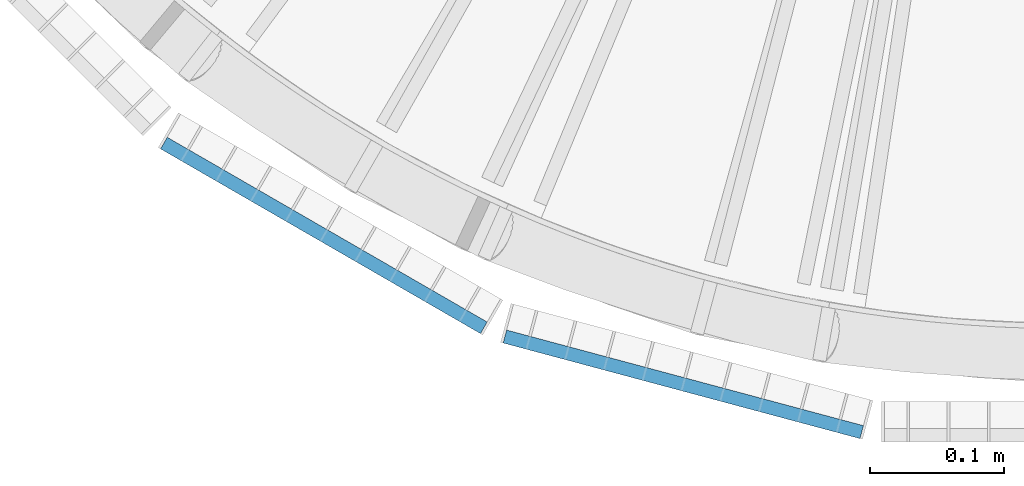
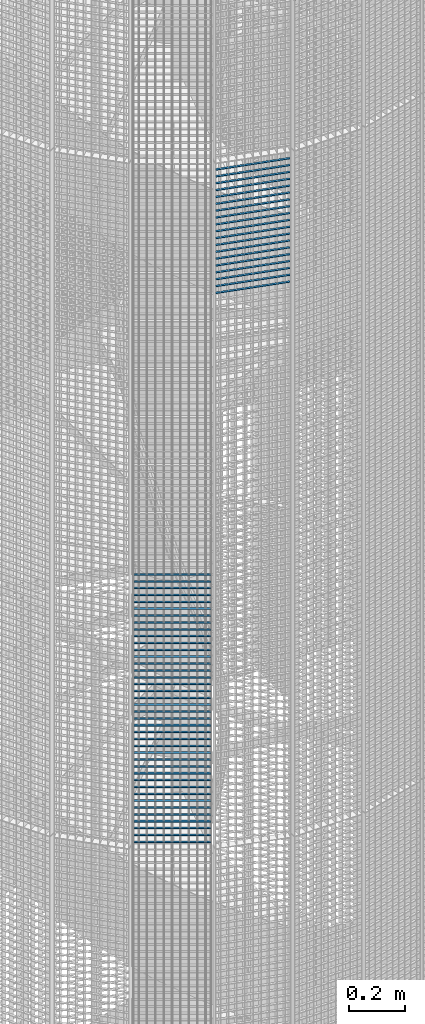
# One storey, part 368 of 1183: 59 beams, 2 elements without a shape of their own.
"""IFC2X3 building model written with IfcOpenShell, lengths in millimetres."""

from ifc_helpers import new_model, si_unit, frame, origin_with_axes, origin_2d_with_axis, place, context, subcontext, project, spatial, rectangle, extrude, material, type_object, element, aggregate, save


model = new_model("IFC2X3")

# Units and contexts
model_context = context("Model", 3, precision=1e-05, world=origin_with_axes())
body_context = subcontext(model_context, "Body", "Model", "MODEL_VIEW")
ifc_project = project(units=[si_unit("LENGTHUNIT", "METRE", prefix="MILLI"), si_unit("AREAUNIT", "SQUARE_METRE"), si_unit("VOLUMEUNIT", "CUBIC_METRE"), si_unit("MASSUNIT", "GRAM", prefix="KILO"), si_unit("TIMEUNIT", "SECOND"), si_unit("PLANEANGLEUNIT", "RADIAN"), si_unit("SOLIDANGLEUNIT", "STERADIAN"), si_unit("THERMODYNAMICTEMPERATUREUNIT", "DEGREE_CELSIUS"), si_unit("LUMINOUSINTENSITYUNIT", "LUMEN")], contexts=[model_context])

# Site, building, storey
site_placement = place(None, origin_with_axes())
site = spatial("IfcSite", under=ifc_project, at=site_placement, Name="Undefined", CompositionType="ELEMENT")
building_placement = place(site_placement, origin_with_axes())
building = spatial("IfcBuilding", under=site, at=building_placement, Name="Undefined", CompositionType="ELEMENT")
storey_placement = place(building_placement, origin_with_axes())
storey = spatial("IfcBuildingStorey", under=building, at=storey_placement, Name="Undefined", CompositionType="ELEMENT", Elevation=0.0)

# Assembly, beams
assembly_1_placement = place(storey_placement, origin_with_axes())
assembly_1 = element("IfcElementAssembly", 1, at=assembly_1_placement, inside=storey, Name="BORDURE", AssemblyPlace="NOTDEFINED", PredefinedType="NOTDEFINED")
ifc_material = material(Name="STEEL/S235JR")
beam_type = type_object("IfcBeamType", Name="PL2*10", PredefinedType="NOTDEFINED")
beam_1_placement = place(assembly_1_placement, frame((21162.7680445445, -1033.29996828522, 7200.0), z_axis=(-0.49999999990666, -0.866025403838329, 0.0), x_axis=(-0.866025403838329, 0.499999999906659, 0.0)))
beam_1 = element("IfcBeam", 2, at=beam_1_placement, type_object=beam_type, material=ifc_material, Name="ENTRETOISE", context=body_context, shape_type="SweptSolid", body=[
    extrude(rectangle(XDim=2.0, YDim=10.0, at=origin_2d_with_axis()), frame((275.999999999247, 9.09494701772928e-13, 1.53210777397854e-14), z_axis=(-1.0, 0.0, 0.0), x_axis=(0.0, -1.0, 0.0)), (0.0, 0.0, 1.0), 276.0),
])
beam_2_placement = place(assembly_1_placement, frame((21162.7680445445, -1033.29996828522, 7170.0), z_axis=(-0.49999999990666, -0.866025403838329, 0.0), x_axis=(-0.866025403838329, 0.499999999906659, 0.0)))
beam_2 = element("IfcBeam", 3, at=beam_2_placement, type_object=beam_type, material=ifc_material, Name="ENTRETOISE", context=body_context, shape_type="SweptSolid", body=[
    extrude(rectangle(XDim=2.0, YDim=10.0, at=origin_2d_with_axis()), frame((275.999999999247, 9.09494701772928e-13, 1.53210777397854e-14), z_axis=(-1.0, 0.0, 0.0), x_axis=(0.0, -1.0, 0.0)), (0.0, 0.0, 1.0), 276.0),
])
beam_3_placement = place(assembly_1_placement, frame((21162.7680445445, -1033.29996828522, 7140.0), z_axis=(-0.49999999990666, -0.866025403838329, 0.0), x_axis=(-0.866025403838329, 0.499999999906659, 0.0)))
beam_3 = element("IfcBeam", 4, at=beam_3_placement, type_object=beam_type, material=ifc_material, Name="ENTRETOISE", context=body_context, shape_type="SweptSolid", body=[
    extrude(rectangle(XDim=2.0, YDim=10.0, at=origin_2d_with_axis()), frame((275.999999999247, 9.09494701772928e-13, 1.53210777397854e-14), z_axis=(-1.0, 0.0, 0.0), x_axis=(0.0, -1.0, 0.0)), (0.0, 0.0, 1.0), 276.0),
])
beam_4_placement = place(assembly_1_placement, frame((21162.7680445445, -1033.29996828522, 6720.0), z_axis=(-0.49999999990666, -0.866025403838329, 0.0), x_axis=(-0.866025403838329, 0.499999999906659, 0.0)))
beam_4 = element("IfcBeam", 5, at=beam_4_placement, type_object=beam_type, material=ifc_material, Name="ENTRETOISE", context=body_context, shape_type="SweptSolid", body=[
    extrude(rectangle(XDim=2.0, YDim=10.0, at=origin_2d_with_axis()), frame((275.999999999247, 9.09494701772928e-13, 1.53210777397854e-14), z_axis=(-1.0, 0.0, 0.0), x_axis=(0.0, -1.0, 0.0)), (0.0, 0.0, 1.0), 276.0),
])
beam_5_placement = place(assembly_1_placement, frame((21162.7680445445, -1033.29996828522, 6690.0), z_axis=(-0.49999999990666, -0.866025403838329, 0.0), x_axis=(-0.866025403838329, 0.499999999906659, 0.0)))
beam_5 = element("IfcBeam", 6, at=beam_5_placement, type_object=beam_type, material=ifc_material, Name="ENTRETOISE", context=body_context, shape_type="SweptSolid", body=[
    extrude(rectangle(XDim=2.0, YDim=10.0, at=origin_2d_with_axis()), frame((275.999999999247, 9.09494701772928e-13, 1.53210777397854e-14), z_axis=(-1.0, 0.0, 0.0), x_axis=(0.0, -1.0, 0.0)), (0.0, 0.0, 1.0), 276.0),
])
beam_6_placement = place(assembly_1_placement, frame((21162.7680445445, -1033.29996828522, 6750.0), z_axis=(-0.49999999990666, -0.866025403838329, 0.0), x_axis=(-0.866025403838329, 0.499999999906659, 0.0)))
beam_6 = element("IfcBeam", 7, at=beam_6_placement, type_object=beam_type, material=ifc_material, Name="ENTRETOISE", context=body_context, shape_type="SweptSolid", body=[
    extrude(rectangle(XDim=2.0, YDim=10.0, at=origin_2d_with_axis()), frame((275.999999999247, 9.09494701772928e-13, 1.53210777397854e-14), z_axis=(-1.0, 0.0, 0.0), x_axis=(0.0, -1.0, 0.0)), (0.0, 0.0, 1.0), 276.0),
])
beam_7_placement = place(assembly_1_placement, frame((21162.7680445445, -1033.29996828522, 6660.0), z_axis=(-0.49999999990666, -0.866025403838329, 0.0), x_axis=(-0.866025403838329, 0.499999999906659, 0.0)))
beam_7 = element("IfcBeam", 8, at=beam_7_placement, type_object=beam_type, material=ifc_material, Name="ENTRETOISE", context=body_context, shape_type="SweptSolid", body=[
    extrude(rectangle(XDim=2.0, YDim=10.0, at=origin_2d_with_axis()), frame((275.999999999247, 9.09494701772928e-13, 1.53210777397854e-14), z_axis=(-1.0, 0.0, 0.0), x_axis=(0.0, -1.0, 0.0)), (0.0, 0.0, 1.0), 276.0),
])
beam_8_placement = place(assembly_1_placement, frame((21162.7680445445, -1033.29996828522, 6630.0), z_axis=(-0.49999999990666, -0.866025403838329, 0.0), x_axis=(-0.866025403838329, 0.499999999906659, 0.0)))
beam_8 = element("IfcBeam", 9, at=beam_8_placement, type_object=beam_type, material=ifc_material, Name="ENTRETOISE", context=body_context, shape_type="SweptSolid", body=[
    extrude(rectangle(XDim=2.0, YDim=10.0, at=origin_2d_with_axis()), frame((275.999999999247, 9.09494701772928e-13, 1.53210777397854e-14), z_axis=(-1.0, 0.0, 0.0), x_axis=(0.0, -1.0, 0.0)), (0.0, 0.0, 1.0), 276.0),
])
beam_9_placement = place(assembly_1_placement, frame((21162.7680445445, -1033.29996828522, 6780.0), z_axis=(-0.49999999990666, -0.866025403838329, 0.0), x_axis=(-0.866025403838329, 0.499999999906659, 0.0)))
beam_9 = element("IfcBeam", 10, at=beam_9_placement, type_object=beam_type, material=ifc_material, Name="ENTRETOISE", context=body_context, shape_type="SweptSolid", body=[
    extrude(rectangle(XDim=2.0, YDim=10.0, at=origin_2d_with_axis()), frame((275.999999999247, 9.09494701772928e-13, 1.53210777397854e-14), z_axis=(-1.0, 0.0, 0.0), x_axis=(0.0, -1.0, 0.0)), (0.0, 0.0, 1.0), 276.0),
])
beam_10_placement = place(assembly_1_placement, frame((21162.7680445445, -1033.29996828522, 6600.0), z_axis=(-0.49999999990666, -0.866025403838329, 0.0), x_axis=(-0.866025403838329, 0.499999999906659, 0.0)))
beam_10 = element("IfcBeam", 11, at=beam_10_placement, type_object=beam_type, material=ifc_material, Name="ENTRETOISE", context=body_context, shape_type="SweptSolid", body=[
    extrude(rectangle(XDim=2.0, YDim=10.0, at=origin_2d_with_axis()), frame((275.999999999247, 9.09494701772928e-13, 1.53210777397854e-14), z_axis=(-1.0, 0.0, 0.0), x_axis=(0.0, -1.0, 0.0)), (0.0, 0.0, 1.0), 276.0),
])
beam_11_placement = place(assembly_1_placement, frame((21162.7680445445, -1033.29996828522, 6810.0), z_axis=(-0.49999999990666, -0.866025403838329, 0.0), x_axis=(-0.866025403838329, 0.499999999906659, 0.0)))
beam_11 = element("IfcBeam", 12, at=beam_11_placement, type_object=beam_type, material=ifc_material, Name="ENTRETOISE", context=body_context, shape_type="SweptSolid", body=[
    extrude(rectangle(XDim=2.0, YDim=10.0, at=origin_2d_with_axis()), frame((275.999999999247, 9.09494701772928e-13, 1.53210777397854e-14), z_axis=(-1.0, 0.0, 0.0), x_axis=(0.0, -1.0, 0.0)), (0.0, 0.0, 1.0), 276.0),
])
beam_12_placement = place(assembly_1_placement, frame((21162.7680445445, -1033.29996828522, 6570.0), z_axis=(-0.49999999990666, -0.866025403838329, 0.0), x_axis=(-0.866025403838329, 0.499999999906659, 0.0)))
beam_12 = element("IfcBeam", 13, at=beam_12_placement, type_object=beam_type, material=ifc_material, Name="ENTRETOISE", context=body_context, shape_type="SweptSolid", body=[
    extrude(rectangle(XDim=2.0, YDim=10.0, at=origin_2d_with_axis()), frame((275.999999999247, 9.09494701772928e-13, 1.53210777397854e-14), z_axis=(-1.0, 0.0, 0.0), x_axis=(0.0, -1.0, 0.0)), (0.0, 0.0, 1.0), 276.0),
])
beam_13_placement = place(assembly_1_placement, frame((21162.7680445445, -1033.29996828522, 6540.0), z_axis=(-0.49999999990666, -0.866025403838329, 0.0), x_axis=(-0.866025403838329, 0.499999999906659, 0.0)))
beam_13 = element("IfcBeam", 14, at=beam_13_placement, type_object=beam_type, material=ifc_material, Name="ENTRETOISE", context=body_context, shape_type="SweptSolid", body=[
    extrude(rectangle(XDim=2.0, YDim=10.0, at=origin_2d_with_axis()), frame((275.999999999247, 9.09494701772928e-13, 1.53210777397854e-14), z_axis=(-1.0, 0.0, 0.0), x_axis=(0.0, -1.0, 0.0)), (0.0, 0.0, 1.0), 276.0),
])
beam_14_placement = place(assembly_1_placement, frame((21162.7680445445, -1033.29996828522, 6840.0), z_axis=(-0.49999999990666, -0.866025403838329, 0.0), x_axis=(-0.866025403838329, 0.499999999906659, 0.0)))
beam_14 = element("IfcBeam", 15, at=beam_14_placement, type_object=beam_type, material=ifc_material, Name="ENTRETOISE", context=body_context, shape_type="SweptSolid", body=[
    extrude(rectangle(XDim=2.0, YDim=10.0, at=origin_2d_with_axis()), frame((275.999999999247, 9.09494701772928e-13, 1.53210777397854e-14), z_axis=(-1.0, 0.0, 0.0), x_axis=(0.0, -1.0, 0.0)), (0.0, 0.0, 1.0), 276.0),
])
beam_15_placement = place(assembly_1_placement, frame((21162.7680445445, -1033.29996828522, 6510.0), z_axis=(-0.49999999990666, -0.866025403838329, 0.0), x_axis=(-0.866025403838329, 0.499999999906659, 0.0)))
beam_15 = element("IfcBeam", 16, at=beam_15_placement, type_object=beam_type, material=ifc_material, Name="ENTRETOISE", context=body_context, shape_type="SweptSolid", body=[
    extrude(rectangle(XDim=2.0, YDim=10.0, at=origin_2d_with_axis()), frame((275.999999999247, 9.09494701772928e-13, 1.53210777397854e-14), z_axis=(-1.0, 0.0, 0.0), x_axis=(0.0, -1.0, 0.0)), (0.0, 0.0, 1.0), 276.0),
])
beam_16_placement = place(assembly_1_placement, frame((21162.7680445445, -1033.29996828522, 6480.0), z_axis=(-0.49999999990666, -0.866025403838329, 0.0), x_axis=(-0.866025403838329, 0.499999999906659, 0.0)))
beam_16 = element("IfcBeam", 17, at=beam_16_placement, type_object=beam_type, material=ifc_material, Name="ENTRETOISE", context=body_context, shape_type="SweptSolid", body=[
    extrude(rectangle(XDim=2.0, YDim=10.0, at=origin_2d_with_axis()), frame((275.999999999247, 9.09494701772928e-13, 1.53210777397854e-14), z_axis=(-1.0, 0.0, 0.0), x_axis=(0.0, -1.0, 0.0)), (0.0, 0.0, 1.0), 276.0),
])
beam_17_placement = place(assembly_1_placement, frame((21162.7680445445, -1033.29996828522, 6870.0), z_axis=(-0.49999999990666, -0.866025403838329, 0.0), x_axis=(-0.866025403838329, 0.499999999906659, 0.0)))
beam_17 = element("IfcBeam", 18, at=beam_17_placement, type_object=beam_type, material=ifc_material, Name="ENTRETOISE", context=body_context, shape_type="SweptSolid", body=[
    extrude(rectangle(XDim=2.0, YDim=10.0, at=origin_2d_with_axis()), frame((275.999999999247, 9.09494701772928e-13, 1.53210777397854e-14), z_axis=(-1.0, 0.0, 0.0), x_axis=(0.0, -1.0, 0.0)), (0.0, 0.0, 1.0), 276.0),
])
beam_18_placement = place(assembly_1_placement, frame((21162.7680445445, -1033.29996828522, 6450.0), z_axis=(-0.49999999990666, -0.866025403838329, 0.0), x_axis=(-0.866025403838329, 0.499999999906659, 0.0)))
beam_18 = element("IfcBeam", 19, at=beam_18_placement, type_object=beam_type, material=ifc_material, Name="ENTRETOISE", context=body_context, shape_type="SweptSolid", body=[
    extrude(rectangle(XDim=2.0, YDim=10.0, at=origin_2d_with_axis()), frame((275.999999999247, 9.09494701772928e-13, 1.53210777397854e-14), z_axis=(-1.0, 0.0, 0.0), x_axis=(0.0, -1.0, 0.0)), (0.0, 0.0, 1.0), 276.0),
])
beam_19_placement = place(assembly_1_placement, frame((21162.7680445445, -1033.29996828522, 6420.0), z_axis=(-0.49999999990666, -0.866025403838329, 0.0), x_axis=(-0.866025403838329, 0.499999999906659, 0.0)))
beam_19 = element("IfcBeam", 20, at=beam_19_placement, type_object=beam_type, material=ifc_material, Name="ENTRETOISE", context=body_context, shape_type="SweptSolid", body=[
    extrude(rectangle(XDim=2.0, YDim=10.0, at=origin_2d_with_axis()), frame((275.999999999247, 9.09494701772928e-13, 1.53210777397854e-14), z_axis=(-1.0, 0.0, 0.0), x_axis=(0.0, -1.0, 0.0)), (0.0, 0.0, 1.0), 276.0),
])
beam_20_placement = place(assembly_1_placement, frame((21162.7680445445, -1033.29996828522, 6900.0), z_axis=(-0.49999999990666, -0.866025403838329, 0.0), x_axis=(-0.866025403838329, 0.499999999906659, 0.0)))
beam_20 = element("IfcBeam", 21, at=beam_20_placement, type_object=beam_type, material=ifc_material, Name="ENTRETOISE", context=body_context, shape_type="SweptSolid", body=[
    extrude(rectangle(XDim=2.0, YDim=10.0, at=origin_2d_with_axis()), frame((275.999999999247, 9.09494701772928e-13, 1.53210777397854e-14), z_axis=(-1.0, 0.0, 0.0), x_axis=(0.0, -1.0, 0.0)), (0.0, 0.0, 1.0), 276.0),
])
beam_21_placement = place(assembly_1_placement, frame((21162.7680445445, -1033.29996828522, 6390.0), z_axis=(-0.49999999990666, -0.866025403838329, 0.0), x_axis=(-0.866025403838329, 0.499999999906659, 0.0)))
beam_21 = element("IfcBeam", 22, at=beam_21_placement, type_object=beam_type, material=ifc_material, Name="ENTRETOISE", context=body_context, shape_type="SweptSolid", body=[
    extrude(rectangle(XDim=2.0, YDim=10.0, at=origin_2d_with_axis()), frame((275.999999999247, 9.09494701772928e-13, 1.53210777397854e-14), z_axis=(-1.0, 0.0, 0.0), x_axis=(0.0, -1.0, 0.0)), (0.0, 0.0, 1.0), 276.0),
])
beam_22_placement = place(assembly_1_placement, frame((21162.7680445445, -1033.29996828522, 6930.0), z_axis=(-0.49999999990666, -0.866025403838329, 0.0), x_axis=(-0.866025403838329, 0.499999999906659, 0.0)))
beam_22 = element("IfcBeam", 23, at=beam_22_placement, type_object=beam_type, material=ifc_material, Name="ENTRETOISE", context=body_context, shape_type="SweptSolid", body=[
    extrude(rectangle(XDim=2.0, YDim=10.0, at=origin_2d_with_axis()), frame((275.999999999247, 9.09494701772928e-13, 1.53210777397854e-14), z_axis=(-1.0, 0.0, 0.0), x_axis=(0.0, -1.0, 0.0)), (0.0, 0.0, 1.0), 276.0),
])
beam_23_placement = place(assembly_1_placement, frame((21162.7680445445, -1033.29996828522, 6360.0), z_axis=(-0.49999999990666, -0.866025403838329, 0.0), x_axis=(-0.866025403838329, 0.499999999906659, 0.0)))
beam_23 = element("IfcBeam", 24, at=beam_23_placement, type_object=beam_type, material=ifc_material, Name="ENTRETOISE", context=body_context, shape_type="SweptSolid", body=[
    extrude(rectangle(XDim=2.0, YDim=10.0, at=origin_2d_with_axis()), frame((275.999999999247, 9.09494701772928e-13, 1.53210777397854e-14), z_axis=(-1.0, 0.0, 0.0), x_axis=(0.0, -1.0, 0.0)), (0.0, 0.0, 1.0), 276.0),
])
beam_24_placement = place(assembly_1_placement, frame((21162.7680445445, -1033.29996828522, 6330.0), z_axis=(-0.49999999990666, -0.866025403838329, 0.0), x_axis=(-0.866025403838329, 0.499999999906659, 0.0)))
beam_24 = element("IfcBeam", 25, at=beam_24_placement, type_object=beam_type, material=ifc_material, Name="ENTRETOISE", context=body_context, shape_type="SweptSolid", body=[
    extrude(rectangle(XDim=2.0, YDim=10.0, at=origin_2d_with_axis()), frame((275.999999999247, 9.09494701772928e-13, 1.53210777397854e-14), z_axis=(-1.0, 0.0, 0.0), x_axis=(0.0, -1.0, 0.0)), (0.0, 0.0, 1.0), 276.0),
])
beam_25_placement = place(assembly_1_placement, frame((21162.7680445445, -1033.29996828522, 6960.0), z_axis=(-0.49999999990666, -0.866025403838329, 0.0), x_axis=(-0.866025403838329, 0.499999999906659, 0.0)))
beam_25 = element("IfcBeam", 26, at=beam_25_placement, type_object=beam_type, material=ifc_material, Name="ENTRETOISE", context=body_context, shape_type="SweptSolid", body=[
    extrude(rectangle(XDim=2.0, YDim=10.0, at=origin_2d_with_axis()), frame((275.999999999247, 9.09494701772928e-13, 1.53210777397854e-14), z_axis=(-1.0, 0.0, 0.0), x_axis=(0.0, -1.0, 0.0)), (0.0, 0.0, 1.0), 276.0),
])
beam_26_placement = place(assembly_1_placement, frame((21162.7680445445, -1033.29996828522, 6300.0), z_axis=(-0.49999999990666, -0.866025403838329, 0.0), x_axis=(-0.866025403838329, 0.499999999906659, 0.0)))
beam_26 = element("IfcBeam", 27, at=beam_26_placement, type_object=beam_type, material=ifc_material, Name="ENTRETOISE", context=body_context, shape_type="SweptSolid", body=[
    extrude(rectangle(XDim=2.0, YDim=10.0, at=origin_2d_with_axis()), frame((275.999999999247, 9.09494701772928e-13, 1.53210777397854e-14), z_axis=(-1.0, 0.0, 0.0), x_axis=(0.0, -1.0, 0.0)), (0.0, 0.0, 1.0), 276.0),
])
beam_27_placement = place(assembly_1_placement, frame((21162.7680445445, -1033.29996828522, 6270.0), z_axis=(-0.49999999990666, -0.866025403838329, 0.0), x_axis=(-0.866025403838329, 0.499999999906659, 0.0)))
beam_27 = element("IfcBeam", 28, at=beam_27_placement, type_object=beam_type, material=ifc_material, Name="ENTRETOISE", context=body_context, shape_type="SweptSolid", body=[
    extrude(rectangle(XDim=2.0, YDim=10.0, at=origin_2d_with_axis()), frame((275.999999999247, 9.09494701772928e-13, 1.53210777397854e-14), z_axis=(-1.0, 0.0, 0.0), x_axis=(0.0, -1.0, 0.0)), (0.0, 0.0, 1.0), 276.0),
])
beam_28_placement = place(assembly_1_placement, frame((21162.7680445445, -1033.29996828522, 6990.0), z_axis=(-0.49999999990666, -0.866025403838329, 0.0), x_axis=(-0.866025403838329, 0.499999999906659, 0.0)))
beam_28 = element("IfcBeam", 29, at=beam_28_placement, type_object=beam_type, material=ifc_material, Name="ENTRETOISE", context=body_context, shape_type="SweptSolid", body=[
    extrude(rectangle(XDim=2.0, YDim=10.0, at=origin_2d_with_axis()), frame((275.999999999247, 9.09494701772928e-13, 1.53210777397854e-14), z_axis=(-1.0, 0.0, 0.0), x_axis=(0.0, -1.0, 0.0)), (0.0, 0.0, 1.0), 276.0),
])
beam_29_placement = place(assembly_1_placement, frame((21162.7680445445, -1033.29996828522, 6240.0), z_axis=(-0.49999999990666, -0.866025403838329, 0.0), x_axis=(-0.866025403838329, 0.499999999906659, 0.0)))
beam_29 = element("IfcBeam", 30, at=beam_29_placement, type_object=beam_type, material=ifc_material, Name="ENTRETOISE", context=body_context, shape_type="SweptSolid", body=[
    extrude(rectangle(XDim=2.0, YDim=10.0, at=origin_2d_with_axis()), frame((275.999999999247, 9.09494701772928e-13, 1.53210777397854e-14), z_axis=(-1.0, 0.0, 0.0), x_axis=(0.0, -1.0, 0.0)), (0.0, 0.0, 1.0), 276.0),
])
beam_30_placement = place(assembly_1_placement, frame((21162.7680445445, -1033.29996828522, 7020.0), z_axis=(-0.49999999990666, -0.866025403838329, 0.0), x_axis=(-0.866025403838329, 0.499999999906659, 0.0)))
beam_30 = element("IfcBeam", 31, at=beam_30_placement, type_object=beam_type, material=ifc_material, Name="ENTRETOISE", context=body_context, shape_type="SweptSolid", body=[
    extrude(rectangle(XDim=2.0, YDim=10.0, at=origin_2d_with_axis()), frame((275.999999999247, 9.09494701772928e-13, 1.53210777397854e-14), z_axis=(-1.0, 0.0, 0.0), x_axis=(0.0, -1.0, 0.0)), (0.0, 0.0, 1.0), 276.0),
])
beam_31_placement = place(assembly_1_placement, frame((21162.7680445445, -1033.29996828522, 6210.0), z_axis=(-0.49999999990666, -0.866025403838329, 0.0), x_axis=(-0.866025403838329, 0.499999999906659, 0.0)))
beam_31 = element("IfcBeam", 32, at=beam_31_placement, type_object=beam_type, material=ifc_material, Name="ENTRETOISE", context=body_context, shape_type="SweptSolid", body=[
    extrude(rectangle(XDim=2.0, YDim=10.0, at=origin_2d_with_axis()), frame((275.999999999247, 9.09494701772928e-13, 1.53210777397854e-14), z_axis=(-1.0, 0.0, 0.0), x_axis=(0.0, -1.0, 0.0)), (0.0, 0.0, 1.0), 276.0),
])
beam_32_placement = place(assembly_1_placement, frame((21162.7680445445, -1033.29996828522, 6180.0), z_axis=(-0.49999999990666, -0.866025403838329, 0.0), x_axis=(-0.866025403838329, 0.499999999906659, 0.0)))
beam_32 = element("IfcBeam", 33, at=beam_32_placement, type_object=beam_type, material=ifc_material, Name="ENTRETOISE", context=body_context, shape_type="SweptSolid", body=[
    extrude(rectangle(XDim=2.0, YDim=10.0, at=origin_2d_with_axis()), frame((275.999999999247, 9.09494701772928e-13, 1.53210777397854e-14), z_axis=(-1.0, 0.0, 0.0), x_axis=(0.0, -1.0, 0.0)), (0.0, 0.0, 1.0), 276.0),
])
beam_33_placement = place(assembly_1_placement, frame((21162.7680445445, -1033.29996828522, 7050.0), z_axis=(-0.49999999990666, -0.866025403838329, 0.0), x_axis=(-0.866025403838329, 0.499999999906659, 0.0)))
beam_33 = element("IfcBeam", 34, at=beam_33_placement, type_object=beam_type, material=ifc_material, Name="ENTRETOISE", context=body_context, shape_type="SweptSolid", body=[
    extrude(rectangle(XDim=2.0, YDim=10.0, at=origin_2d_with_axis()), frame((275.999999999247, 9.09494701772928e-13, 1.53210777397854e-14), z_axis=(-1.0, 0.0, 0.0), x_axis=(0.0, -1.0, 0.0)), (0.0, 0.0, 1.0), 276.0),
])
beam_34_placement = place(assembly_1_placement, frame((21162.7680445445, -1033.29996828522, 6150.0), z_axis=(-0.49999999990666, -0.866025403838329, 0.0), x_axis=(-0.866025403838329, 0.499999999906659, 0.0)))
beam_34 = element("IfcBeam", 35, at=beam_34_placement, type_object=beam_type, material=ifc_material, Name="ENTRETOISE", context=body_context, shape_type="SweptSolid", body=[
    extrude(rectangle(XDim=2.0, YDim=10.0, at=origin_2d_with_axis()), frame((275.999999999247, 9.09494701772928e-13, 1.53210777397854e-14), z_axis=(-1.0, 0.0, 0.0), x_axis=(0.0, -1.0, 0.0)), (0.0, 0.0, 1.0), 276.0),
])
beam_35_placement = place(assembly_1_placement, frame((21162.7680445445, -1033.29996828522, 6120.0), z_axis=(-0.49999999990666, -0.866025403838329, 0.0), x_axis=(-0.866025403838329, 0.499999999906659, 0.0)))
beam_35 = element("IfcBeam", 36, at=beam_35_placement, type_object=beam_type, material=ifc_material, Name="ENTRETOISE", context=body_context, shape_type="SweptSolid", body=[
    extrude(rectangle(XDim=2.0, YDim=10.0, at=origin_2d_with_axis()), frame((275.999999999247, 9.09494701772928e-13, 1.53210777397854e-14), z_axis=(-1.0, 0.0, 0.0), x_axis=(0.0, -1.0, 0.0)), (0.0, 0.0, 1.0), 276.0),
])
beam_36_placement = place(assembly_1_placement, frame((21162.7680445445, -1033.29996828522, 7080.0), z_axis=(-0.49999999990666, -0.866025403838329, 0.0), x_axis=(-0.866025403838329, 0.499999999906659, 0.0)))
beam_36 = element("IfcBeam", 37, at=beam_36_placement, type_object=beam_type, material=ifc_material, Name="ENTRETOISE", context=body_context, shape_type="SweptSolid", body=[
    extrude(rectangle(XDim=2.0, YDim=10.0, at=origin_2d_with_axis()), frame((275.999999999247, 9.09494701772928e-13, 1.53210777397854e-14), z_axis=(-1.0, 0.0, 0.0), x_axis=(0.0, -1.0, 0.0)), (0.0, 0.0, 1.0), 276.0),
])
beam_37_placement = place(assembly_1_placement, frame((21162.7680445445, -1033.29996828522, 6090.0), z_axis=(-0.49999999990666, -0.866025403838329, 0.0), x_axis=(-0.866025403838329, 0.499999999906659, 0.0)))
beam_37 = element("IfcBeam", 38, at=beam_37_placement, type_object=beam_type, material=ifc_material, Name="ENTRETOISE", context=body_context, shape_type="SweptSolid", body=[
    extrude(rectangle(XDim=2.0, YDim=10.0, at=origin_2d_with_axis()), frame((275.999999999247, 9.09494701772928e-13, 1.53210777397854e-14), z_axis=(-1.0, 0.0, 0.0), x_axis=(0.0, -1.0, 0.0)), (0.0, 0.0, 1.0), 276.0),
])
beam_38_placement = place(assembly_1_placement, frame((21162.7680445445, -1033.29996828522, 6060.0), z_axis=(-0.49999999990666, -0.866025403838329, 0.0), x_axis=(-0.866025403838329, 0.499999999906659, 0.0)))
beam_38 = element("IfcBeam", 39, at=beam_38_placement, type_object=beam_type, material=ifc_material, Name="ENTRETOISE", context=body_context, shape_type="SweptSolid", body=[
    extrude(rectangle(XDim=2.0, YDim=10.0, at=origin_2d_with_axis()), frame((275.999999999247, 9.09494701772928e-13, 1.53210777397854e-14), z_axis=(-1.0, 0.0, 0.0), x_axis=(0.0, -1.0, 0.0)), (0.0, 0.0, 1.0), 276.0),
])
beam_39_placement = place(assembly_1_placement, frame((21162.7680445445, -1033.29996828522, 7110.0), z_axis=(-0.49999999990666, -0.866025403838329, 0.0), x_axis=(-0.866025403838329, 0.499999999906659, 0.0)))
beam_39 = element("IfcBeam", 40, at=beam_39_placement, type_object=beam_type, material=ifc_material, Name="ENTRETOISE", context=body_context, shape_type="SweptSolid", body=[
    extrude(rectangle(XDim=2.0, YDim=10.0, at=origin_2d_with_axis()), frame((275.999999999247, 9.09494701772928e-13, 1.53210777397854e-14), z_axis=(-1.0, 0.0, 0.0), x_axis=(0.0, -1.0, 0.0)), (0.0, 0.0, 1.0), 276.0),
])
beam_40_placement = place(assembly_1_placement, frame((21162.7680445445, -1033.29996828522, 6030.0), z_axis=(-0.49999999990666, -0.866025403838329, 0.0), x_axis=(-0.866025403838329, 0.499999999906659, 0.0)))
beam_40 = element("IfcBeam", 41, at=beam_40_placement, type_object=beam_type, material=ifc_material, Name="ENTRETOISE", context=body_context, shape_type="SweptSolid", body=[
    extrude(rectangle(XDim=2.0, YDim=10.0, at=origin_2d_with_axis()), frame((275.999999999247, 9.09494701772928e-13, 1.53210777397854e-14), z_axis=(-1.0, 0.0, 0.0), x_axis=(0.0, -1.0, 0.0)), (0.0, 0.0, 1.0), 276.0),
])
aggregate(assembly_1, [beam_1, beam_2, beam_3, beam_4, beam_5, beam_6, beam_7, beam_8, beam_9, beam_10, beam_11, beam_12, beam_13, beam_14, beam_15, beam_16, beam_17, beam_18, beam_19, beam_20, beam_21, beam_22, beam_23, beam_24, beam_25, beam_26, beam_27, beam_28, beam_29, beam_30, beam_31, beam_32, beam_33, beam_34, beam_35, beam_36, beam_37, beam_38, beam_39, beam_40])

assembly_2_placement = place(storey_placement, origin_with_axes())
assembly_2 = element("IfcElementAssembly", 42, at=assembly_2_placement, inside=storey, Name="BORDURE", AssemblyPlace="NOTDEFINED", PredefinedType="NOTDEFINED")
beam_41_placement = place(assembly_2_placement, frame((21445.1040732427, -1111.25508286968, 8970.0), z_axis=(-0.258819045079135, -0.965925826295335, 0.0), x_axis=(-0.965925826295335, 0.258819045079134, 0.0)))
beam_41 = element("IfcBeam", 43, at=beam_41_placement, type_object=beam_type, material=ifc_material, Name="ENTRETOISE", context=body_context, shape_type="SweptSolid", body=[
    extrude(rectangle(XDim=2.0, YDim=10.0, at=origin_2d_with_axis()), frame((275.999999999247, 9.09494701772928e-13, 1.53210777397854e-14), z_axis=(-1.0, 0.0, 0.0), x_axis=(0.0, -1.0, 0.0)), (0.0, 0.0, 1.0), 276.0),
])
beam_42_placement = place(assembly_2_placement, frame((21445.1040732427, -1111.25508286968, 8940.0), z_axis=(-0.258819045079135, -0.965925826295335, 0.0), x_axis=(-0.965925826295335, 0.258819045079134, 0.0)))
beam_42 = element("IfcBeam", 44, at=beam_42_placement, type_object=beam_type, material=ifc_material, Name="ENTRETOISE", context=body_context, shape_type="SweptSolid", body=[
    extrude(rectangle(XDim=2.0, YDim=10.0, at=origin_2d_with_axis()), frame((275.999999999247, 9.09494701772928e-13, 1.53210777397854e-14), z_axis=(-1.0, 0.0, 0.0), x_axis=(0.0, -1.0, 0.0)), (0.0, 0.0, 1.0), 276.0),
])
beam_43_placement = place(assembly_2_placement, frame((21445.1040732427, -1111.25508286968, 8910.0), z_axis=(-0.258819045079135, -0.965925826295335, 0.0), x_axis=(-0.965925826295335, 0.258819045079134, 0.0)))
beam_43 = element("IfcBeam", 45, at=beam_43_placement, type_object=beam_type, material=ifc_material, Name="ENTRETOISE", context=body_context, shape_type="SweptSolid", body=[
    extrude(rectangle(XDim=2.0, YDim=10.0, at=origin_2d_with_axis()), frame((275.999999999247, 9.09494701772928e-13, 1.53210777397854e-14), z_axis=(-1.0, 0.0, 0.0), x_axis=(0.0, -1.0, 0.0)), (0.0, 0.0, 1.0), 276.0),
])
beam_44_placement = place(assembly_2_placement, frame((21445.1040732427, -1111.25508286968, 8880.0), z_axis=(-0.258819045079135, -0.965925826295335, 0.0), x_axis=(-0.965925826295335, 0.258819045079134, 0.0)))
beam_44 = element("IfcBeam", 46, at=beam_44_placement, type_object=beam_type, material=ifc_material, Name="ENTRETOISE", context=body_context, shape_type="SweptSolid", body=[
    extrude(rectangle(XDim=2.0, YDim=10.0, at=origin_2d_with_axis()), frame((275.999999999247, 9.09494701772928e-13, 1.53210777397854e-14), z_axis=(-1.0, 0.0, 0.0), x_axis=(0.0, -1.0, 0.0)), (0.0, 0.0, 1.0), 276.0),
])
beam_45_placement = place(assembly_2_placement, frame((21445.1040732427, -1111.25508286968, 8850.0), z_axis=(-0.258819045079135, -0.965925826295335, 0.0), x_axis=(-0.965925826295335, 0.258819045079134, 0.0)))
beam_45 = element("IfcBeam", 47, at=beam_45_placement, type_object=beam_type, material=ifc_material, Name="ENTRETOISE", context=body_context, shape_type="SweptSolid", body=[
    extrude(rectangle(XDim=2.0, YDim=10.0, at=origin_2d_with_axis()), frame((275.999999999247, 9.09494701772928e-13, 1.53210777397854e-14), z_axis=(-1.0, 0.0, 0.0), x_axis=(0.0, -1.0, 0.0)), (0.0, 0.0, 1.0), 276.0),
])
beam_46_placement = place(assembly_2_placement, frame((21445.1040732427, -1111.25508286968, 8820.0), z_axis=(-0.258819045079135, -0.965925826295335, 0.0), x_axis=(-0.965925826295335, 0.258819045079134, 0.0)))
beam_46 = element("IfcBeam", 48, at=beam_46_placement, type_object=beam_type, material=ifc_material, Name="ENTRETOISE", context=body_context, shape_type="SweptSolid", body=[
    extrude(rectangle(XDim=2.0, YDim=10.0, at=origin_2d_with_axis()), frame((275.999999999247, 9.09494701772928e-13, 1.53210777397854e-14), z_axis=(-1.0, 0.0, 0.0), x_axis=(0.0, -1.0, 0.0)), (0.0, 0.0, 1.0), 276.0),
])
beam_47_placement = place(assembly_2_placement, frame((21445.1040732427, -1111.25508286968, 8790.0), z_axis=(-0.258819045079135, -0.965925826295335, 0.0), x_axis=(-0.965925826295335, 0.258819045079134, 0.0)))
beam_47 = element("IfcBeam", 49, at=beam_47_placement, type_object=beam_type, material=ifc_material, Name="ENTRETOISE", context=body_context, shape_type="SweptSolid", body=[
    extrude(rectangle(XDim=2.0, YDim=10.0, at=origin_2d_with_axis()), frame((275.999999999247, 9.09494701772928e-13, 1.53210777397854e-14), z_axis=(-1.0, 0.0, 0.0), x_axis=(0.0, -1.0, 0.0)), (0.0, 0.0, 1.0), 276.0),
])
beam_48_placement = place(assembly_2_placement, frame((21445.1040732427, -1111.25508286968, 8760.0), z_axis=(-0.258819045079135, -0.965925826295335, 0.0), x_axis=(-0.965925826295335, 0.258819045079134, 0.0)))
beam_48 = element("IfcBeam", 50, at=beam_48_placement, type_object=beam_type, material=ifc_material, Name="ENTRETOISE", context=body_context, shape_type="SweptSolid", body=[
    extrude(rectangle(XDim=2.0, YDim=10.0, at=origin_2d_with_axis()), frame((275.999999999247, 9.09494701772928e-13, 1.53210777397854e-14), z_axis=(-1.0, 0.0, 0.0), x_axis=(0.0, -1.0, 0.0)), (0.0, 0.0, 1.0), 276.0),
])
beam_49_placement = place(assembly_2_placement, frame((21445.1040732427, -1111.25508286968, 8730.0), z_axis=(-0.258819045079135, -0.965925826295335, 0.0), x_axis=(-0.965925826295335, 0.258819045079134, 0.0)))
beam_49 = element("IfcBeam", 51, at=beam_49_placement, type_object=beam_type, material=ifc_material, Name="ENTRETOISE", context=body_context, shape_type="SweptSolid", body=[
    extrude(rectangle(XDim=2.0, YDim=10.0, at=origin_2d_with_axis()), frame((275.999999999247, 9.09494701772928e-13, 1.53210777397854e-14), z_axis=(-1.0, 0.0, 0.0), x_axis=(0.0, -1.0, 0.0)), (0.0, 0.0, 1.0), 276.0),
])
beam_50_placement = place(assembly_2_placement, frame((21445.1040732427, -1111.25508286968, 8700.0), z_axis=(-0.258819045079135, -0.965925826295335, 0.0), x_axis=(-0.965925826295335, 0.258819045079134, 0.0)))
beam_50 = element("IfcBeam", 52, at=beam_50_placement, type_object=beam_type, material=ifc_material, Name="ENTRETOISE", context=body_context, shape_type="SweptSolid", body=[
    extrude(rectangle(XDim=2.0, YDim=10.0, at=origin_2d_with_axis()), frame((275.999999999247, 9.09494701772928e-13, 1.53210777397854e-14), z_axis=(-1.0, 0.0, 0.0), x_axis=(0.0, -1.0, 0.0)), (0.0, 0.0, 1.0), 276.0),
])
beam_51_placement = place(assembly_2_placement, frame((21445.1040732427, -1111.25508286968, 8670.0), z_axis=(-0.258819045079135, -0.965925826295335, 0.0), x_axis=(-0.965925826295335, 0.258819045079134, 0.0)))
beam_51 = element("IfcBeam", 53, at=beam_51_placement, type_object=beam_type, material=ifc_material, Name="ENTRETOISE", context=body_context, shape_type="SweptSolid", body=[
    extrude(rectangle(XDim=2.0, YDim=10.0, at=origin_2d_with_axis()), frame((275.999999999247, 9.09494701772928e-13, 1.53210777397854e-14), z_axis=(-1.0, 0.0, 0.0), x_axis=(0.0, -1.0, 0.0)), (0.0, 0.0, 1.0), 276.0),
])
beam_52_placement = place(assembly_2_placement, frame((21445.1040732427, -1111.25508286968, 8640.0), z_axis=(-0.258819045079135, -0.965925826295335, 0.0), x_axis=(-0.965925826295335, 0.258819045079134, 0.0)))
beam_52 = element("IfcBeam", 54, at=beam_52_placement, type_object=beam_type, material=ifc_material, Name="ENTRETOISE", context=body_context, shape_type="SweptSolid", body=[
    extrude(rectangle(XDim=2.0, YDim=10.0, at=origin_2d_with_axis()), frame((275.999999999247, 9.09494701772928e-13, 1.53210777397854e-14), z_axis=(-1.0, 0.0, 0.0), x_axis=(0.0, -1.0, 0.0)), (0.0, 0.0, 1.0), 276.0),
])
beam_53_placement = place(assembly_2_placement, frame((21445.1040732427, -1111.25508286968, 8610.0), z_axis=(-0.258819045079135, -0.965925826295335, 0.0), x_axis=(-0.965925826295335, 0.258819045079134, 0.0)))
beam_53 = element("IfcBeam", 55, at=beam_53_placement, type_object=beam_type, material=ifc_material, Name="ENTRETOISE", context=body_context, shape_type="SweptSolid", body=[
    extrude(rectangle(XDim=2.0, YDim=10.0, at=origin_2d_with_axis()), frame((275.999999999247, 9.09494701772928e-13, 1.53210777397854e-14), z_axis=(-1.0, 0.0, 0.0), x_axis=(0.0, -1.0, 0.0)), (0.0, 0.0, 1.0), 276.0),
])
beam_54_placement = place(assembly_2_placement, frame((21445.1040732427, -1111.25508286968, 8580.0), z_axis=(-0.258819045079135, -0.965925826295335, 0.0), x_axis=(-0.965925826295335, 0.258819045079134, 0.0)))
beam_54 = element("IfcBeam", 56, at=beam_54_placement, type_object=beam_type, material=ifc_material, Name="ENTRETOISE", context=body_context, shape_type="SweptSolid", body=[
    extrude(rectangle(XDim=2.0, YDim=10.0, at=origin_2d_with_axis()), frame((275.999999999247, 9.09494701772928e-13, 1.53210777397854e-14), z_axis=(-1.0, 0.0, 0.0), x_axis=(0.0, -1.0, 0.0)), (0.0, 0.0, 1.0), 276.0),
])
beam_55_placement = place(assembly_2_placement, frame((21445.1040732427, -1111.25508286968, 8550.0), z_axis=(-0.258819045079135, -0.965925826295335, 0.0), x_axis=(-0.965925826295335, 0.258819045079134, 0.0)))
beam_55 = element("IfcBeam", 57, at=beam_55_placement, type_object=beam_type, material=ifc_material, Name="ENTRETOISE", context=body_context, shape_type="SweptSolid", body=[
    extrude(rectangle(XDim=2.0, YDim=10.0, at=origin_2d_with_axis()), frame((275.999999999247, 9.09494701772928e-13, 1.53210777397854e-14), z_axis=(-1.0, 0.0, 0.0), x_axis=(0.0, -1.0, 0.0)), (0.0, 0.0, 1.0), 276.0),
])
beam_56_placement = place(assembly_2_placement, frame((21445.1040732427, -1111.25508286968, 8520.0), z_axis=(-0.258819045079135, -0.965925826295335, 0.0), x_axis=(-0.965925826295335, 0.258819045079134, 0.0)))
beam_56 = element("IfcBeam", 58, at=beam_56_placement, type_object=beam_type, material=ifc_material, Name="ENTRETOISE", context=body_context, shape_type="SweptSolid", body=[
    extrude(rectangle(XDim=2.0, YDim=10.0, at=origin_2d_with_axis()), frame((275.999999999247, 9.09494701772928e-13, 1.53210777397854e-14), z_axis=(-1.0, 0.0, 0.0), x_axis=(0.0, -1.0, 0.0)), (0.0, 0.0, 1.0), 276.0),
])
beam_57_placement = place(assembly_2_placement, frame((21445.1040732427, -1111.25508286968, 8490.0), z_axis=(-0.258819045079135, -0.965925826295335, 0.0), x_axis=(-0.965925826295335, 0.258819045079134, 0.0)))
beam_57 = element("IfcBeam", 59, at=beam_57_placement, type_object=beam_type, material=ifc_material, Name="ENTRETOISE", context=body_context, shape_type="SweptSolid", body=[
    extrude(rectangle(XDim=2.0, YDim=10.0, at=origin_2d_with_axis()), frame((275.999999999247, 9.09494701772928e-13, 1.53210777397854e-14), z_axis=(-1.0, 0.0, 0.0), x_axis=(0.0, -1.0, 0.0)), (0.0, 0.0, 1.0), 276.0),
])
beam_58_placement = place(assembly_2_placement, frame((21445.1040732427, -1111.25508286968, 8460.0), z_axis=(-0.258819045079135, -0.965925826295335, 0.0), x_axis=(-0.965925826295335, 0.258819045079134, 0.0)))
beam_58 = element("IfcBeam", 60, at=beam_58_placement, type_object=beam_type, material=ifc_material, Name="ENTRETOISE", context=body_context, shape_type="SweptSolid", body=[
    extrude(rectangle(XDim=2.0, YDim=10.0, at=origin_2d_with_axis()), frame((275.999999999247, 9.09494701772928e-13, 1.53210777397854e-14), z_axis=(-1.0, 0.0, 0.0), x_axis=(0.0, -1.0, 0.0)), (0.0, 0.0, 1.0), 276.0),
])
beam_59_placement = place(assembly_2_placement, frame((21445.1040732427, -1111.25508286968, 8430.0), z_axis=(-0.258819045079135, -0.965925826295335, 0.0), x_axis=(-0.965925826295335, 0.258819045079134, 0.0)))
beam_59 = element("IfcBeam", 61, at=beam_59_placement, type_object=beam_type, material=ifc_material, Name="ENTRETOISE", context=body_context, shape_type="SweptSolid", body=[
    extrude(rectangle(XDim=2.0, YDim=10.0, at=origin_2d_with_axis()), frame((275.999999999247, 9.09494701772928e-13, 1.53210777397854e-14), z_axis=(-1.0, 0.0, 0.0), x_axis=(0.0, -1.0, 0.0)), (0.0, 0.0, 1.0), 276.0),
])
aggregate(assembly_2, [beam_41, beam_42, beam_43, beam_44, beam_45, beam_46, beam_47, beam_48, beam_49, beam_50, beam_51, beam_52, beam_53, beam_54, beam_55, beam_56, beam_57, beam_58, beam_59])

save(model, "model.ifc")
